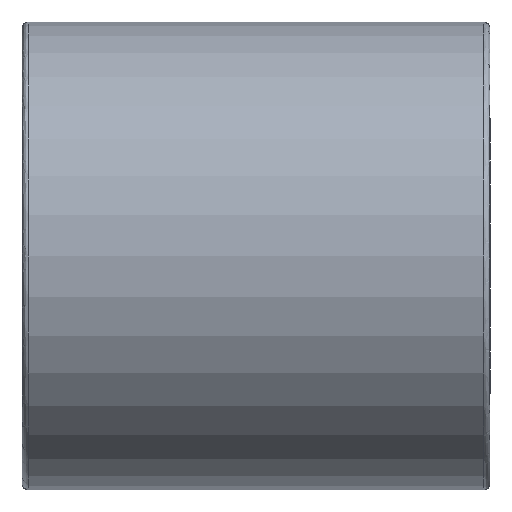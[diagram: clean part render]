
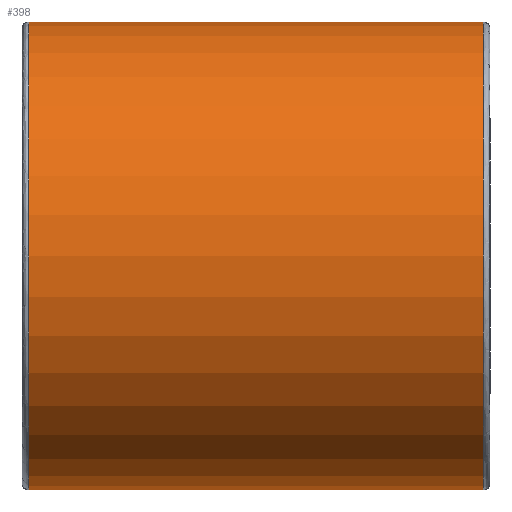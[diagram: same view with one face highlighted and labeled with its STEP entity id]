
A CAD part, left-side view. The second image highlights one B-rep face of the part: STEP entity #398.
In plain terms, the highlighted cylindrical face has radius 9 mm (diameter 18 mm), a partial arc.
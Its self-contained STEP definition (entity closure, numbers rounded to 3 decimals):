
#20 = FACE_OUTER_BOUND ( 'NONE', #370, .T. ) ;
#88 = CARTESIAN_POINT ( 'NONE',  ( 0., 9., 0. ) ) ;
#94 = AXIS2_PLACEMENT_3D ( 'NONE', #831, #284, #455 ) ;
#98 = CARTESIAN_POINT ( 'NONE',  ( 0., 8.75, -9. ) ) ;
#103 = CIRCLE ( 'NONE', #94, 9. ) ;
#118 = VERTEX_POINT ( 'NONE', #882 ) ;
#129 = VERTEX_POINT ( 'NONE', #98 ) ;
#156 = AXIS2_PLACEMENT_3D ( 'NONE', #719, #303, #731 ) ;
#175 = DIRECTION ( 'NONE',  ( 0., -1., 0. ) ) ;
#245 = DIRECTION ( 'NONE',  ( 0., -1., 0. ) ) ;
#283 = VECTOR ( 'NONE', #175, 1000. ) ;
#284 = DIRECTION ( 'NONE',  ( 0., 1., 0. ) ) ;
#289 = VERTEX_POINT ( 'NONE', #771 ) ;
#303 = DIRECTION ( 'NONE',  ( 0., -1., 0. ) ) ;
#325 = VECTOR ( 'NONE', #563, 1000. ) ;
#328 = EDGE_CURVE ( 'NONE', #129, #390, #340, .T. ) ;
#340 = LINE ( 'NONE', #484, #325 ) ;
#370 = EDGE_LOOP ( 'NONE', ( #830, #568, #385, #676 ) ) ;
#385 = ORIENTED_EDGE ( 'NONE', *, *, #328, .T. ) ;
#388 = EDGE_CURVE ( 'NONE', #118, #289, #680, .T. ) ;
#390 = VERTEX_POINT ( 'NONE', #876 ) ;
#398 = ADVANCED_FACE ( 'NONE', ( #20 ), #466, .T. ) ;
#455 = DIRECTION ( 'NONE',  ( 0., 0., -1. ) ) ;
#466 = CYLINDRICAL_SURFACE ( 'NONE', #772, 9. ) ;
#484 = CARTESIAN_POINT ( 'NONE',  ( 0., 9., -9. ) ) ;
#563 = DIRECTION ( 'NONE',  ( 0., -1., 0. ) ) ;
#568 = ORIENTED_EDGE ( 'NONE', *, *, #605, .T. ) ;
#605 = EDGE_CURVE ( 'NONE', #118, #129, #816, .T. ) ;
#676 = ORIENTED_EDGE ( 'NONE', *, *, #819, .T. ) ;
#680 = LINE ( 'NONE', #810, #283 ) ;
#719 = CARTESIAN_POINT ( 'NONE',  ( 0., 8.75, 0. ) ) ;
#731 = DIRECTION ( 'NONE',  ( 0., 0., -1. ) ) ;
#771 = CARTESIAN_POINT ( 'NONE',  ( 0., -8.75, 9. ) ) ;
#772 = AXIS2_PLACEMENT_3D ( 'NONE', #88, #245, #881 ) ;
#810 = CARTESIAN_POINT ( 'NONE',  ( 0., 9., 9. ) ) ;
#816 = CIRCLE ( 'NONE', #156, 9. ) ;
#819 = EDGE_CURVE ( 'NONE', #390, #289, #103, .T. ) ;
#830 = ORIENTED_EDGE ( 'NONE', *, *, #388, .F. ) ;
#831 = CARTESIAN_POINT ( 'NONE',  ( 0., -8.75, 0. ) ) ;
#876 = CARTESIAN_POINT ( 'NONE',  ( 0., -8.75, -9. ) ) ;
#881 = DIRECTION ( 'NONE',  ( 0., 0., -1. ) ) ;
#882 = CARTESIAN_POINT ( 'NONE',  ( 0., 8.75, 9. ) ) ;
